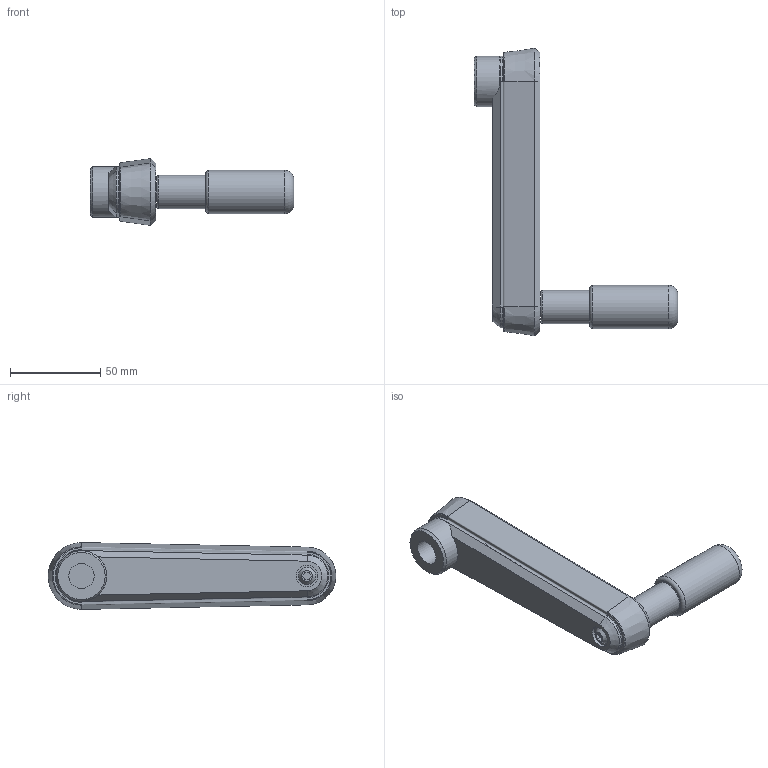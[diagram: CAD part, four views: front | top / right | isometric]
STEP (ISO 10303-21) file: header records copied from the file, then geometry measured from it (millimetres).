
FILE_DESCRIPTION( ( 'STEP AP203' ), '1' );
FILE_NAME( 'C:/Temp/Ganter_Step_05_03_2020/data/1_3/gn_472_3/Cranked handle with retractable handle GN 472.3-125-B14-SW (activated).stp', '2020-03-05T10:45:54', ( 'License CC BY-ND 4.0' ), ( 'CADENAS' ), ' ', 'PARTsolutions', ' ' );
FILE_SCHEMA( ( 'CONFIG_CONTROL_DESIGN' ) );
Length unit declared in the file: millimetre
Products named in the file (3): Cranked handle with retractable handle GN 472.3-125-B14-SW (activated); _Cranked handle with retractable handle GN 472.3-125-B14-SW (90)-1; _Cranked handle with retractable handle GN 472.3-125-B14-SW (90)-2
Assembly tree (2 placements, depth 2):
  Cranked handle with retractable handle GN 472.3-125-B14-SW (activated)
    _Cranked handle with retractable handle GN 472.3-125-B14-SW (90)-1
    _Cranked handle with retractable handle GN 472.3-125-B14-SW (90)-2
Bounding box: 113 x 159.5 x 37 mm (x, y, z)
Volume: 95985.2 mm3; surface area: 34109.4 mm2
Topology: 2 solids, 3 shells, 94 faces, 223 edges, 145 vertices
Faces by surface type: plane 44, cylinder 26, torus 11, cone 10, bspline 2, sphere 1
Full cylindrical faces by diameter (mm): 3 x2, 7.9 x1, 8 x1, 11 x1, 12 x1, 14 x1, 18.5 x1, 20 x2, 20.02 x1, 24 x1, 28 x1
Entity records: 2791 total; most frequent: CARTESIAN_POINT 634, DIRECTION 431, ORIENTED_EDGE 388, EDGE_CURVE 194, AXIS2_PLACEMENT_3D 177, VERTEX_POINT 138, EDGE_LOOP 129, FACE_OUTER_BOUND 112
